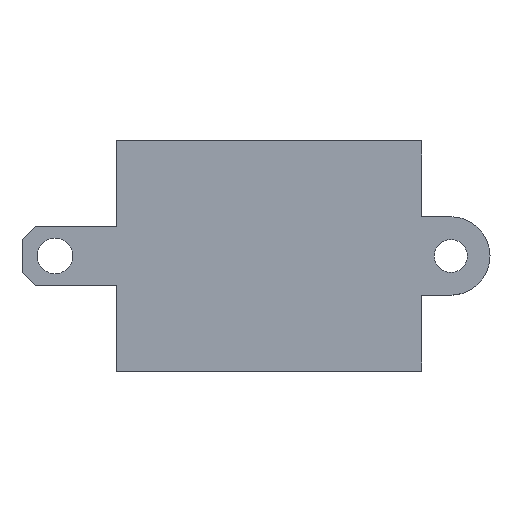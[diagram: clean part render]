
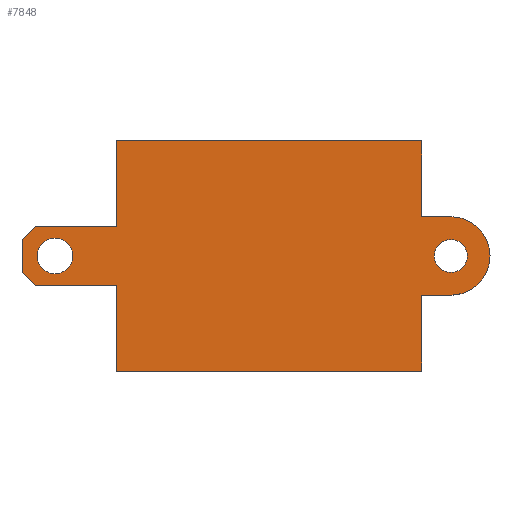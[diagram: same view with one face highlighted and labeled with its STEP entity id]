
A CAD part, top view. The second image highlights one B-rep face of the part: STEP entity #7848.
In plain terms, the highlighted planar face has unit normal (0, 0, 1).
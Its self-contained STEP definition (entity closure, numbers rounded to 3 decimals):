
#367=LINE('',#11431,#1169);
#469=LINE('',#11951,#1271);
#527=LINE('',#12138,#1329);
#564=LINE('',#12458,#1366);
#580=LINE('',#12504,#1382);
#581=LINE('',#12510,#1383);
#582=LINE('',#12512,#1384);
#583=LINE('',#12514,#1385);
#584=LINE('',#12516,#1386);
#585=LINE('',#12518,#1387);
#586=LINE('',#12519,#1388);
#587=LINE('',#12521,#1389);
#588=LINE('',#12525,#1390);
#1169=VECTOR('',#9068,1000.);
#1271=VECTOR('',#9330,1000.);
#1329=VECTOR('',#9470,1000.);
#1366=VECTOR('',#9651,1000.);
#1382=VECTOR('',#9687,1000.);
#1383=VECTOR('',#9694,1000.);
#1384=VECTOR('',#9695,1000.);
#1385=VECTOR('',#9696,1000.);
#1386=VECTOR('',#9697,1000.);
#1387=VECTOR('',#9698,1000.);
#1388=VECTOR('',#9699,1000.);
#1389=VECTOR('',#9700,1000.);
#1390=VECTOR('',#9703,1000.);
#2525=ORIENTED_EDGE('',*,*,#4846,.T.);
#2526=ORIENTED_EDGE('',*,*,#4847,.T.);
#2527=ORIENTED_EDGE('',*,*,#4848,.T.);
#2528=ORIENTED_EDGE('',*,*,#4849,.T.);
#2529=ORIENTED_EDGE('',*,*,#4850,.T.);
#2530=ORIENTED_EDGE('',*,*,#4851,.T.);
#2531=ORIENTED_EDGE('',*,*,#4852,.T.);
#2532=ORIENTED_EDGE('',*,*,#4845,.F.);
#2533=ORIENTED_EDGE('',*,*,#4612,.T.);
#2534=ORIENTED_EDGE('',*,*,#4853,.T.);
#2535=ORIENTED_EDGE('',*,*,#4854,.T.);
#2536=ORIENTED_EDGE('',*,*,#4855,.T.);
#2537=ORIENTED_EDGE('',*,*,#4856,.T.);
#2538=ORIENTED_EDGE('',*,*,#4408,.T.);
#2539=ORIENTED_EDGE('',*,*,#4705,.F.);
#2540=ORIENTED_EDGE('',*,*,#4819,.F.);
#4408=EDGE_CURVE('',#5613,#5615,#367,.T.);
#4612=EDGE_CURVE('',#5800,#5799,#469,.T.);
#4705=EDGE_CURVE('',#5883,#5615,#527,.T.);
#4819=EDGE_CURVE('',#5954,#5883,#564,.T.);
#4845=EDGE_CURVE('',#5800,#5952,#580,.T.);
#4846=EDGE_CURVE('',#5975,#5975,#6475,.F.);
#4847=EDGE_CURVE('',#5976,#5976,#6476,.F.);
#4848=EDGE_CURVE('',#5954,#5977,#581,.T.);
#4849=EDGE_CURVE('',#5977,#5978,#582,.F.);
#4850=EDGE_CURVE('',#5978,#5979,#583,.T.);
#4851=EDGE_CURVE('',#5979,#5980,#584,.F.);
#4852=EDGE_CURVE('',#5980,#5952,#585,.T.);
#4853=EDGE_CURVE('',#5799,#5981,#586,.T.);
#4854=EDGE_CURVE('',#5981,#5982,#587,.T.);
#4855=EDGE_CURVE('',#5982,#5983,#6477,.T.);
#4856=EDGE_CURVE('',#5983,#5613,#588,.T.);
#5613=VERTEX_POINT('',#11426);
#5615=VERTEX_POINT('',#11430);
#5799=VERTEX_POINT('',#11950);
#5800=VERTEX_POINT('',#11952);
#5883=VERTEX_POINT('',#12137);
#5952=VERTEX_POINT('',#12453);
#5954=VERTEX_POINT('',#12457);
#5975=VERTEX_POINT('',#12507);
#5976=VERTEX_POINT('',#12509);
#5977=VERTEX_POINT('',#12511);
#5978=VERTEX_POINT('',#12513);
#5979=VERTEX_POINT('',#12515);
#5980=VERTEX_POINT('',#12517);
#5981=VERTEX_POINT('',#12520);
#5982=VERTEX_POINT('',#12522);
#5983=VERTEX_POINT('',#12524);
#6475=CIRCLE('',#8448,2.15);
#6476=CIRCLE('',#8449,2.);
#6477=CIRCLE('',#8450,4.75);
#6707=EDGE_LOOP('',(#2525));
#6708=EDGE_LOOP('',(#2526));
#6709=EDGE_LOOP('',(#2527,#2528,#2529,#2530,#2531,#2532,#2533,#2534,#2535,
#2536,#2537,#2538,#2539,#2540));
#7151=FACE_BOUND('',#6707,.T.);
#7152=FACE_BOUND('',#6708,.T.);
#7153=FACE_BOUND('',#6709,.T.);
#7564=PLANE('',#8447);
#7848=ADVANCED_FACE('',(#7151,#7152,#7153),#7564,.T.);
#8447=AXIS2_PLACEMENT_3D('',#12505,#9688,#9689);
#8448=AXIS2_PLACEMENT_3D('',#12506,#9690,#9691);
#8449=AXIS2_PLACEMENT_3D('',#12508,#9692,#9693);
#8450=AXIS2_PLACEMENT_3D('',#12523,#9701,#9702);
#9068=DIRECTION('',(0.,1.,0.));
#9330=DIRECTION('',(1.,0.,0.));
#9470=DIRECTION('',(1.,0.,0.));
#9651=DIRECTION('',(0.,1.,0.));
#9687=DIRECTION('',(0.,1.,0.));
#9688=DIRECTION('',(0.,0.,1.));
#9689=DIRECTION('',(1.,0.,0.));
#9690=DIRECTION('',(0.,0.,1.));
#9691=DIRECTION('',(1.,0.,0.));
#9692=DIRECTION('',(0.,0.,1.));
#9693=DIRECTION('',(1.,0.,0.));
#9694=DIRECTION('',(-1.,0.,0.));
#9695=DIRECTION('',(0.707,0.707,0.));
#9696=DIRECTION('',(0.,-1.,0.));
#9697=DIRECTION('',(-0.707,0.707,0.));
#9698=DIRECTION('',(1.,0.,0.));
#9699=DIRECTION('',(0.,1.,0.));
#9700=DIRECTION('',(1.,0.,0.));
#9701=DIRECTION('',(0.,0.,1.));
#9702=DIRECTION('',(-1.,0.,0.));
#9703=DIRECTION('',(-1.,0.,0.));
#11426=CARTESIAN_POINT('',(19.453,4.749,0.));
#11430=CARTESIAN_POINT('',(19.453,13.95,0.));
#11431=CARTESIAN_POINT('',(19.453,-13.95,0.));
#11950=CARTESIAN_POINT('',(19.453,-13.95,0.));
#11951=CARTESIAN_POINT('',(19.453,-13.95,0.));
#11952=CARTESIAN_POINT('',(-17.5,-13.95,0.));
#12137=CARTESIAN_POINT('',(-17.5,13.95,0.));
#12138=CARTESIAN_POINT('',(19.453,13.95,0.));
#12453=CARTESIAN_POINT('',(-17.5,-3.6,0.));
#12457=CARTESIAN_POINT('',(-17.5,3.6,0.));
#12458=CARTESIAN_POINT('',(-17.5,-13.95,0.));
#12504=CARTESIAN_POINT('',(-17.5,-13.95,0.));
#12505=CARTESIAN_POINT('',(19.453,-13.95,0.));
#12506=CARTESIAN_POINT('',(-25.,0.,0.));
#12507=CARTESIAN_POINT('',(-22.85,0.,0.));
#12508=CARTESIAN_POINT('',(22.953,-0.001,0.));
#12509=CARTESIAN_POINT('',(24.953,-0.001,0.));
#12510=CARTESIAN_POINT('',(-17.5,3.6,0.));
#12511=CARTESIAN_POINT('',(-27.4,3.6,0.));
#12512=CARTESIAN_POINT('',(-12.749,18.251,0.));
#12513=CARTESIAN_POINT('',(-29.,2.,0.));
#12514=CARTESIAN_POINT('',(-29.,3.6,0.));
#12515=CARTESIAN_POINT('',(-29.,-2.,0.));
#12516=CARTESIAN_POINT('',(1.201,-32.201,0.));
#12517=CARTESIAN_POINT('',(-27.4,-3.6,0.));
#12518=CARTESIAN_POINT('',(-29.,-3.6,0.));
#12519=CARTESIAN_POINT('',(19.453,-13.95,0.));
#12520=CARTESIAN_POINT('',(19.453,-4.751,0.));
#12521=CARTESIAN_POINT('',(22.953,-4.751,0.));
#12522=CARTESIAN_POINT('',(22.953,-4.751,0.));
#12523=CARTESIAN_POINT('',(22.953,-0.001,0.));
#12524=CARTESIAN_POINT('',(22.953,4.749,0.));
#12525=CARTESIAN_POINT('',(22.953,4.749,0.));
